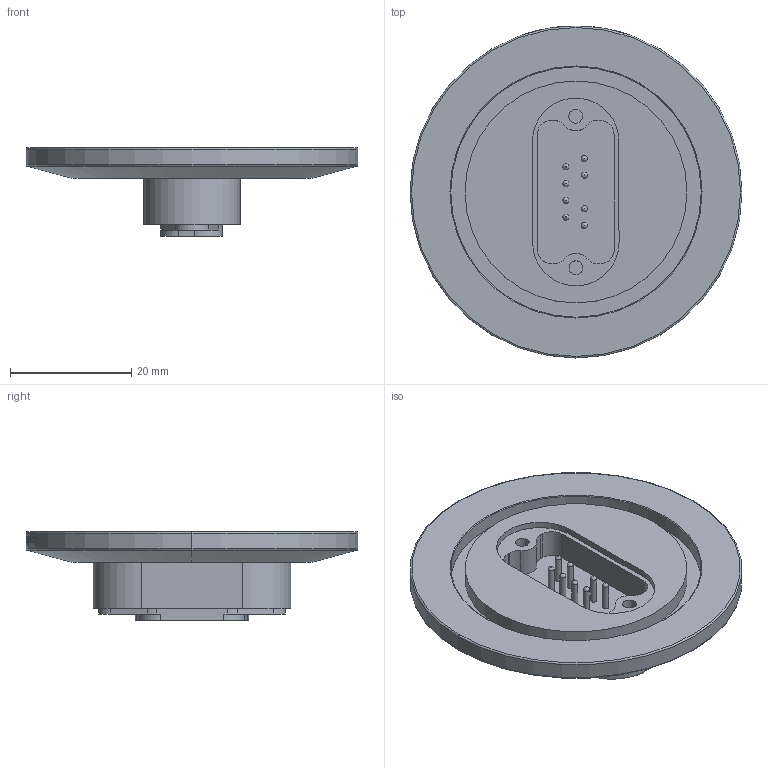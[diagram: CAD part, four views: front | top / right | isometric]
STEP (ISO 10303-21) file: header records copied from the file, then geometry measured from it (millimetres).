
FILE_DESCRIPTION(/* description */ ('Alibre Inc.'),/* implementation_level */ '2;1');
FILE_NAME(/* name */ 'export0',/* time_stamp */ '2009-11-11T16:15:57-08:00',/* author */ (''),/* organization */ (''),/* preprocessor_version */ 'ST-DEVELOPER v10',/* originating_system */ 'Alibre',/* authorisation */ '');
FILE_SCHEMA (('CONFIG_CONTROL_DESIGN'));
Length unit declared in the file: centimetre
Products named in the file (1): ID_1
Bounding box: 54.86 x 54.86 x 14.71 mm (x, y, z)
Volume: 11450.5 mm3; surface area: 7714.2 mm2
Topology: 1 solids, 1 shells, 415 faces, 1069 edges, 711 vertices
Faces by surface type: plane 166, bspline 138, cylinder 86, torus 20, cone 4, sphere 1
Full cylindrical faces by diameter (mm): 0.991 x16, 2.261 x4
Entity records: 32353 total; most frequent: CARTESIAN_POINT 23725, ORIENTED_EDGE 2030, DIRECTION 1153, EDGE_CURVE 1015, VERTEX_POINT 693, AXIS2_PLACEMENT_3D 530, EDGE_LOOP 506, FACE_BOUND 506
